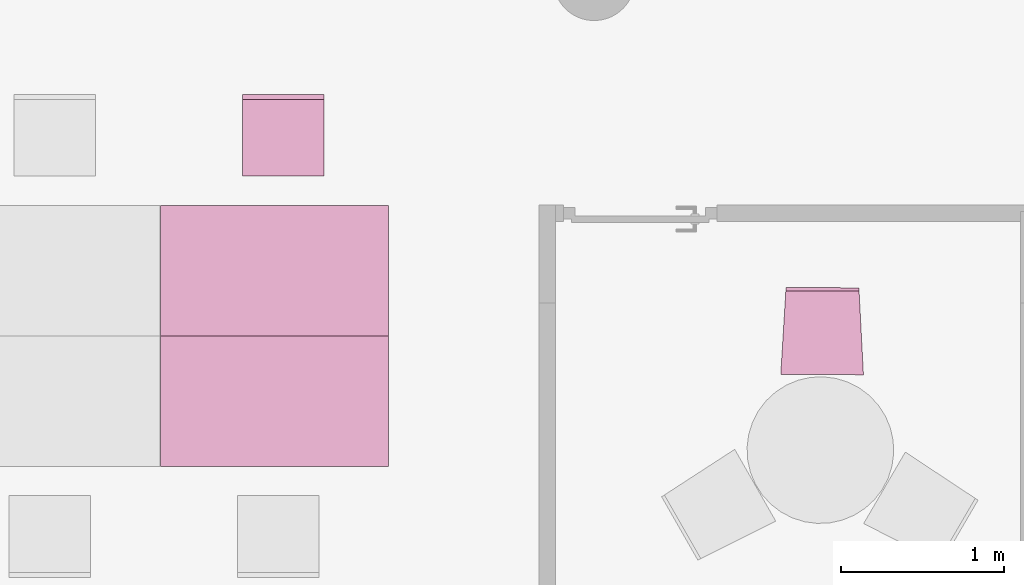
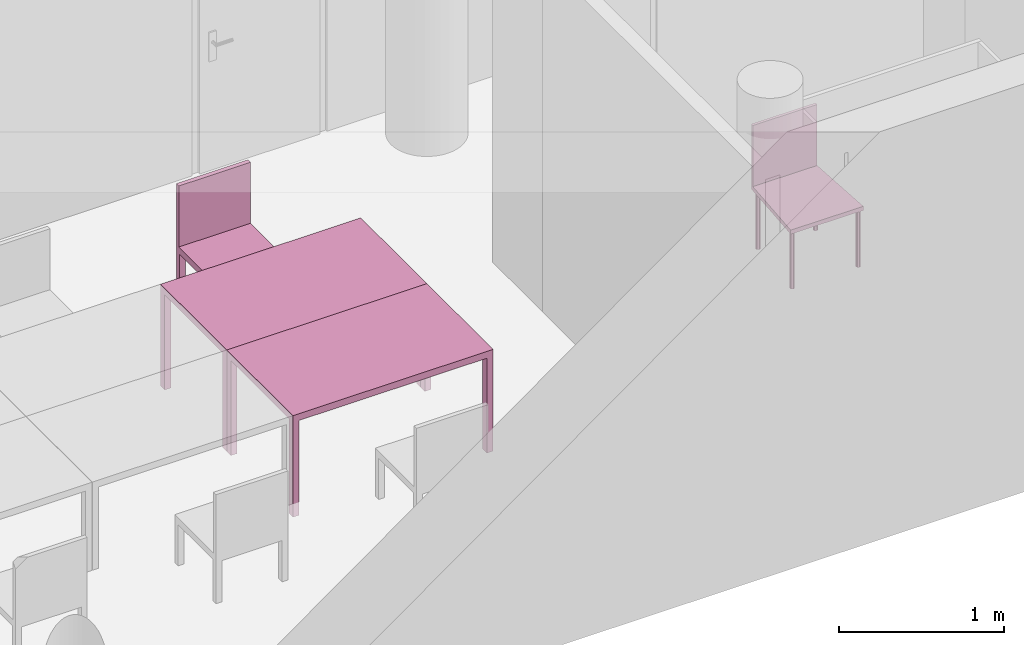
"""IFC4 building model written with IfcOpenShell, lengths in metres."""

from ifc_helpers import new_model, entity, si_unit, converted_unit, derived_unit, frame, origin, place, context, subcontext, project, spatial, faceted_brep, element, save


model = new_model("IFC4")

# Units and contexts
model_context = context("Model", 3, precision=1e-05, world=origin())
body_context = subcontext(model_context, "Body", "Model", "MODEL_VIEW")
ifc_project = project(units=[si_unit("LENGTHUNIT", "METRE"), si_unit("AREAUNIT", "SQUARE_METRE"), si_unit("VOLUMEUNIT", "CUBIC_METRE"), si_unit("MASSUNIT", "GRAM", prefix="KILO"), converted_unit("PLANEANGLEUNIT", "DEGREE", entity("IfcPlaneAngleMeasure", 0.0174532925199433), si_unit("PLANEANGLEUNIT", "RADIAN"), dimensions=[0, 0, 0, 0, 0, 0, 0]), derived_unit("THERMALTRANSMITTANCEUNIT", [(si_unit("POWERUNIT", "WATT"), 1), (si_unit("THERMODYNAMICTEMPERATUREUNIT", "KELVIN"), -1), (si_unit("LENGTHUNIT", "METRE"), -2)]), derived_unit("VOLUMETRICFLOWRATEUNIT", [(si_unit("LENGTHUNIT", "METRE"), 3), (converted_unit("TIMEUNIT", "hour", entity("IfcTimeMeasure", 3600.0), si_unit("TIMEUNIT", "SECOND"), dimensions=[0, 0, 1, 0, 0, 0, 0]), -1), (si_unit("LENGTHUNIT", "METRE"), -1)])], contexts=[model_context])

# Building, storeys
building_placement = place(None, origin())
building = spatial("IfcBuilding", under=ifc_project, at=building_placement, Name="HABITATGE PLURIFAMILIAR", CompositionType="ELEMENT")
storey_1_placement = place(building_placement, frame((0.0, 0.0, 9.26)))
storey_1 = spatial("IfcBuildingStorey", under=building, at=storey_1_placement, Name="PLANTA SEGONA", CompositionType="ELEMENT", Elevation=9.26)
storey_2_placement = place(storey_1_placement, frame((0.0, 0.0, 6.25)))
storey_2 = spatial("IfcBuildingStorey", under=storey_1, at=storey_2_placement, Name="NOU", CompositionType="PARTIAL")

# Furniture
furniture_1_placement = place(storey_2_placement, frame((403.682850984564, 16.5972248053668, -6.34505686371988)))
element("IfcFurniture", 1, at=furniture_1_placement, inside=storey_2, Name="Cadira d'Oficina_P2", context=body_context, shape_type="Brep", body=[
    faceted_brep([(0.5, 0.0, 0.4), (0.5, 0.500000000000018, 0.4), (0.0, 0.5, 0.4), (0.0, 0.0, 0.4), (0.5, 0.500000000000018, 0.45), (0.5, 0.0, 0.45), (0.0, 0.0, 0.45), (0.0, 0.5, 0.45)], [[[0, 1, 2, 3]], [[4, 5, 6, 7]], [[1, 0, 5, 4]], [[2, 1, 4, 7]], [[3, 2, 7, 6]], [[0, 3, 6, 5]]], orient=[[False], [False], [False], [False], [False], [False]]),
    faceted_brep([(0.0, 0.46, 0.0), (0.04, 0.46, 0.0), (0.04, 0.5, 0.0), (0.0, 0.5, 0.0), (0.04, 0.46, 0.4), (0.0, 0.46, 0.4), (0.0, 0.5, 0.4), (0.04, 0.5, 0.4)], [[[0, 1, 2, 3]], [[4, 5, 6, 7]], [[1, 0, 5, 4]], [[2, 1, 4, 7]], [[3, 2, 7, 6]], [[0, 3, 6, 5]]], orient=[[False], [False], [False], [False], [False], [False]]),
    faceted_brep([(0.0, 0.0, 0.0), (0.04, 0.0, 0.0), (0.04, 0.04, 0.0), (0.0, 0.04, 0.0), (0.04, 0.0, 0.4), (0.0, 0.0, 0.4), (0.0, 0.04, 0.4), (0.04, 0.04, 0.4)], [[[0, 1, 2, 3]], [[4, 5, 6, 7]], [[1, 0, 5, 4]], [[2, 1, 4, 7]], [[3, 2, 7, 6]], [[0, 3, 6, 5]]], orient=[[False], [False], [False], [False], [False], [False]]),
    faceted_brep([(0.46, 0.460000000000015, 0.0), (0.5, 0.460000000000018, 0.0), (0.5, 0.500000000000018, 0.0), (0.46, 0.500000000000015, 0.0), (0.5, 0.460000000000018, 0.4), (0.46, 0.460000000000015, 0.4), (0.46, 0.500000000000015, 0.4), (0.5, 0.500000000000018, 0.4)], [[[0, 1, 2, 3]], [[4, 5, 6, 7]], [[1, 0, 5, 4]], [[2, 1, 4, 7]], [[3, 2, 7, 6]], [[0, 3, 6, 5]]], orient=[[False], [False], [False], [False], [False], [False]]),
    faceted_brep([(0.46, 0.0, 0.0), (0.5, 0.0, 0.0), (0.5, 0.0400000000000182, 0.0), (0.46, 0.0400000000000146, 0.0), (0.5, 0.0, 0.4), (0.46, 0.0, 0.4), (0.46, 0.0400000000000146, 0.4), (0.5, 0.0400000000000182, 0.4)], [[[0, 1, 2, 3]], [[4, 5, 6, 7]], [[1, 0, 5, 4]], [[2, 1, 4, 7]], [[3, 2, 7, 6]], [[0, 3, 6, 5]]], orient=[[False], [False], [False], [False], [False], [False]]),
    faceted_brep([(0.0, 0.47, 0.45), (0.5, 0.470000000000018, 0.45), (0.5, 0.500000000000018, 0.45), (0.0, 0.5, 0.45), (0.5, 0.470000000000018, 0.9), (0.0, 0.47, 0.9), (0.0, 0.5, 0.9), (0.5, 0.500000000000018, 0.9)], [[[0, 1, 2, 3]], [[4, 5, 6, 7]], [[1, 0, 5, 4]], [[2, 1, 4, 7]], [[3, 2, 7, 6]], [[0, 3, 6, 5]]], orient=[[False], [False], [False], [False], [False], [False]]),
])
furniture_2_placement = place(storey_2_placement, frame((403.18086436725, 14.8179709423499, -6.3499999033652)))
element("IfcFurniture", 2, at=furniture_2_placement, inside=storey_2, Name="Taula 140X80_P2", context=body_context, shape_type="Brep", body=[
    faceted_brep([(0.04375, 0.750069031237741, 0.0), (0.04375, 0.800069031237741, 0.0), (0.0, 0.800069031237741, 0.0), (0.0, 0.750069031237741, 0.0), (0.04375, 0.800069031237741, 0.7), (0.04375, 0.750069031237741, 0.7), (0.0, 0.750069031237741, 0.7), (0.0, 0.800069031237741, 0.7)], [[[0, 1, 2, 3]], [[4, 5, 6, 7]], [[1, 0, 5, 4]], [[2, 1, 4, 7]], [[3, 2, 7, 6]], [[0, 3, 6, 5]]], orient=[[False], [False], [False], [False], [False], [False]]),
    faceted_brep([(0.04375, 0.0, 0.0), (0.04375, 0.05, 0.0), (0.0, 0.05, 0.0), (0.0, 0.0, 0.0), (0.04375, 0.05, 0.7), (0.04375, 0.0, 0.7), (0.0, 0.0, 0.7), (0.0, 0.05, 0.7)], [[[0, 1, 2, 3]], [[4, 5, 6, 7]], [[1, 0, 5, 4]], [[2, 1, 4, 7]], [[3, 2, 7, 6]], [[0, 3, 6, 5]]], orient=[[False], [False], [False], [False], [False], [False]]),
    faceted_brep([(1.39732768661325, 0.0, 0.7), (1.39732768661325, 0.800069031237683, 0.7), (0.0, 0.800069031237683, 0.7), (0.0, 0.0, 0.7), (1.39732768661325, 0.800069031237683, 0.75), (1.39732768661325, 0.0, 0.75), (0.0, 0.0, 0.75), (0.0, 0.800069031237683, 0.75)], [[[0, 1, 2, 3]], [[4, 5, 6, 7]], [[1, 0, 5, 4]], [[2, 1, 4, 7]], [[3, 2, 7, 6]], [[0, 3, 6, 5]]], orient=[[False], [False], [False], [False], [False], [False]]),
    faceted_brep([(1.39732768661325, 0.750069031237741, 0.0), (1.39732768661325, 0.800069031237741, 0.0), (1.35357768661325, 0.800069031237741, 0.0), (1.35357768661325, 0.750069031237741, 0.0), (1.39732768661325, 0.800069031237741, 0.7), (1.39732768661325, 0.750069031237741, 0.7), (1.35357768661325, 0.750069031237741, 0.7), (1.35357768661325, 0.800069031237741, 0.7)], [[[0, 1, 2, 3]], [[4, 5, 6, 7]], [[1, 0, 5, 4]], [[2, 1, 4, 7]], [[3, 2, 7, 6]], [[0, 3, 6, 5]]], orient=[[False], [False], [False], [False], [False], [False]]),
    faceted_brep([(1.39732768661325, 0.0, 0.0), (1.39732768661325, 0.05, 0.0), (1.35357768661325, 0.05, 0.0), (1.35357768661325, 0.0, 0.0), (1.39732768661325, 0.05, 0.7), (1.39732768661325, 0.0, 0.7), (1.35357768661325, 0.0, 0.7), (1.35357768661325, 0.05, 0.7)], [[[0, 1, 2, 3]], [[4, 5, 6, 7]], [[1, 0, 5, 4]], [[2, 1, 4, 7]], [[3, 2, 7, 6]], [[0, 3, 6, 5]]], orient=[[False], [False], [False], [False], [False], [False]]),
])
furniture_3_placement = place(storey_2_placement, frame((403.18086436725, 15.6180399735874, -6.3499999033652)))
element("IfcFurniture", 3, at=furniture_3_placement, inside=storey_2, Name="Taula 140X80_P2", context=body_context, shape_type="Brep", body=[
    faceted_brep([(0.04375, 0.05, 0.0), (0.0, 0.05, 0.0), (0.0, 0.0, 0.0), (0.04375, 0.0, 0.0), (0.04375, 0.0, 0.7), (0.0, 0.0, 0.7), (0.0, 0.05, 0.7), (0.04375, 0.05, 0.7)], [[[0, 1, 2, 3]], [[4, 5, 6, 7]], [[3, 4, 7, 0]], [[2, 5, 4, 3]], [[1, 6, 5, 2]], [[0, 7, 6, 1]]], orient=[[False], [False], [False], [False], [False], [False]]),
    faceted_brep([(0.04375, 0.800069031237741, 0.0), (0.0, 0.800069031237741, 0.0), (0.0, 0.750069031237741, 0.0), (0.04375, 0.750069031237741, 0.0), (0.04375, 0.750069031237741, 0.7), (0.0, 0.750069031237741, 0.7), (0.0, 0.800069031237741, 0.7), (0.04375, 0.800069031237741, 0.7)], [[[0, 1, 2, 3]], [[4, 5, 6, 7]], [[3, 4, 7, 0]], [[2, 5, 4, 3]], [[1, 6, 5, 2]], [[0, 7, 6, 1]]], orient=[[False], [False], [False], [False], [False], [False]]),
    faceted_brep([(1.39732768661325, 0.800069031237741, 0.7), (0.0, 0.800069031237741, 0.7), (0.0, 0.0, 0.7), (1.39732768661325, 0.0, 0.7), (1.39732768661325, 0.0, 0.75), (0.0, 0.0, 0.75), (0.0, 0.800069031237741, 0.75), (1.39732768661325, 0.800069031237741, 0.75)], [[[0, 1, 2, 3]], [[4, 5, 6, 7]], [[3, 4, 7, 0]], [[2, 5, 4, 3]], [[1, 6, 5, 2]], [[0, 7, 6, 1]]], orient=[[False], [False], [False], [False], [False], [False]]),
    faceted_brep([(1.39732768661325, 0.05, 0.0), (1.35357768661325, 0.05, 0.0), (1.35357768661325, 0.0, 0.0), (1.39732768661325, 0.0, 0.0), (1.39732768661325, 0.0, 0.7), (1.35357768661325, 0.0, 0.7), (1.35357768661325, 0.05, 0.7), (1.39732768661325, 0.05, 0.7)], [[[0, 1, 2, 3]], [[4, 5, 6, 7]], [[3, 4, 7, 0]], [[2, 5, 4, 3]], [[1, 6, 5, 2]], [[0, 7, 6, 1]]], orient=[[False], [False], [False], [False], [False], [False]]),
    faceted_brep([(1.39732768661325, 0.800069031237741, 0.0), (1.35357768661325, 0.800069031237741, 0.0), (1.35357768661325, 0.750069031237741, 0.0), (1.39732768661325, 0.750069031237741, 0.0), (1.39732768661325, 0.750069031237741, 0.7), (1.35357768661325, 0.750069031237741, 0.7), (1.35357768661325, 0.800069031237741, 0.7), (1.39732768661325, 0.800069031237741, 0.7)], [[[0, 1, 2, 3]], [[4, 5, 6, 7]], [[3, 4, 7, 0]], [[2, 5, 4, 3]], [[1, 6, 5, 2]], [[0, 7, 6, 1]]], orient=[[False], [False], [False], [False], [False], [False]]),
])
furniture_4_placement = place(storey_2_placement, frame((406.980423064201, 15.3794706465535, -6.3514820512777)))
element("IfcFurniture", 4, at=furniture_4_placement, inside=storey_2, Name="Cadira confident_P2", context=body_context, shape_type="Brep", body=[
    faceted_brep([(0.0392724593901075, 0.0271272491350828, 0.0), (0.0390567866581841, 0.0297221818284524, 0.0), (0.0383937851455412, 0.0322402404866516, 0.0), (0.0373035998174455, 0.0346049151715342, 0.0), (0.0358193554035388, 0.036744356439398, 0.0), (0.0339861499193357, 0.0385935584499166, 0.0), (0.0318596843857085, 0.0400963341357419, 0.0), (0.0295045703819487, 0.0412070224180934, 0.0), (0.0269923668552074, 0.0418918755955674, 0.0), (0.0243994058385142, 0.0421300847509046, 0.0), (0.0218044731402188, 0.041914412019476, 0.0), (0.0192864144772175, 0.04125141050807, 0.0), (0.0169217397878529, 0.040161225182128, 0.0), (0.0147822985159, 0.0386769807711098, 0.0), (0.0129330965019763, 0.0368437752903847, 0.0), (0.0114303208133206, 0.0347173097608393, 0.0), (0.0103196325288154, 0.0323621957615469, 0.0), (0.00963477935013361, 0.0298499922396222, 0.0), (0.00939657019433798, 0.0272570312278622, 0.0), (0.0096122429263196, 0.0246620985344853, 0.0), (0.0102752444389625, 0.0221440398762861, 0.0), (0.011365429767, 0.0197793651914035, 0.0), (0.0128496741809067, 0.0176399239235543, 0.0), (0.0146828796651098, 0.0157907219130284, 0.0), (0.0168093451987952, 0.0142879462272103, 0.0), (0.019164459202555, 0.0131772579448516, 0.0), (0.0216766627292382, 0.0124924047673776, 0.0), (0.0242696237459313, 0.0122541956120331, 0.0), (0.0268645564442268, 0.012469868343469, 0.0), (0.0293826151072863, 0.013132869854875, 0.0), (0.0317472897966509, 0.0142230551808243, 0.0), (0.0338867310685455, 0.0157072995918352, 0.0), (0.0357359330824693, 0.0175405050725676, 0.0), (0.037238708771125, 0.0196669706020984, 0.0), (0.0383493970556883, 0.0220220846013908, 0.0), (0.0390342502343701, 0.0245342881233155, 0.0), (0.0392724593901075, 0.0271272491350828, 0.448281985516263), (0.0390342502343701, 0.0245342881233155, 0.448281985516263), (0.0383493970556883, 0.0220220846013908, 0.448281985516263), (0.037238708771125, 0.0196669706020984, 0.448281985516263), (0.0357359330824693, 0.0175405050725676, 0.448281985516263), (0.0338867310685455, 0.0157072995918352, 0.448281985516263), (0.0317472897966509, 0.0142230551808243, 0.448281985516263), (0.0293826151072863, 0.013132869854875, 0.448281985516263), (0.0268645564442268, 0.012469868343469, 0.448281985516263), (0.0242696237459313, 0.0122541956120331, 0.448281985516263), (0.0216766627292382, 0.0124924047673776, 0.448281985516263), (0.019164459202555, 0.0131772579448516, 0.448281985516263), (0.0168093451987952, 0.0142879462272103, 0.448281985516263), (0.0146828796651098, 0.0157907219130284, 0.448281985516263), (0.0128496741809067, 0.0176399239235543, 0.448281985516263), (0.011365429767, 0.0197793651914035, 0.448281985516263), (0.0102752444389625, 0.0221440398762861, 0.448281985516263), (0.0096122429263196, 0.0246620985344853, 0.448281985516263), (0.00939657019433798, 0.0272570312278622, 0.448281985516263), (0.00963477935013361, 0.0298499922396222, 0.448281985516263), (0.0103196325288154, 0.0323621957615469, 0.448281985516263), (0.0114303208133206, 0.0347173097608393, 0.448281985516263), (0.0129330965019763, 0.0368437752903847, 0.448281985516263), (0.0147822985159, 0.0386769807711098, 0.448281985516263), (0.0169217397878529, 0.040161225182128, 0.448281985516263), (0.0192864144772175, 0.04125141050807, 0.448281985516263), (0.0218044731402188, 0.041914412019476, 0.448281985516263), (0.0243994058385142, 0.0421300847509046, 0.448281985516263), (0.0269923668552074, 0.0418918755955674, 0.448281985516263), (0.0295045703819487, 0.0412070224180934, 0.448281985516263), (0.0318596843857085, 0.0400963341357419, 0.448281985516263), (0.0339861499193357, 0.0385935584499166, 0.448281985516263), (0.0358193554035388, 0.036744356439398, 0.448281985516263), (0.0373035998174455, 0.0346049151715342, 0.448281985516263), (0.0383937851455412, 0.0322402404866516, 0.448281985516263), (0.0390567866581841, 0.0297221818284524, 0.448281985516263)], [[[0, 1, 2, 3, 4, 5, 6, 7, 8, 9, 10, 11, 12, 13, 14, 15, 16, 17, 18, 19, 20, 21, 22, 23, 24, 25, 26, 27, 28, 29, 30, 31, 32, 33, 34, 35]], [[36, 37, 38, 39, 40, 41, 42, 43, 44, 45, 46, 47, 48, 49, 50, 51, 52, 53, 54, 55, 56, 57, 58, 59, 60, 61, 62, 63, 64, 65, 66, 67, 68, 69, 70, 71]], [[1, 0, 36, 71]], [[2, 1, 71, 70]], [[3, 2, 70, 69]], [[4, 3, 69, 68]], [[5, 4, 68, 67]], [[6, 5, 67, 66]], [[7, 6, 66, 65]], [[8, 7, 65, 64]], [[9, 8, 64, 63]], [[10, 9, 63, 62]], [[11, 10, 62, 61]], [[12, 11, 61, 60]], [[13, 12, 60, 59]], [[14, 13, 59, 58]], [[15, 14, 58, 57]], [[16, 15, 57, 56]], [[17, 16, 56, 55]], [[18, 17, 55, 54]], [[19, 18, 54, 53]], [[20, 19, 53, 52]], [[21, 20, 52, 51]], [[22, 21, 51, 50]], [[23, 22, 50, 49]], [[24, 23, 49, 48]], [[25, 24, 48, 47]], [[26, 25, 47, 46]], [[27, 26, 46, 45]], [[28, 27, 45, 44]], [[29, 28, 44, 43]], [[30, 29, 43, 42]], [[31, 30, 42, 41]], [[32, 31, 41, 40]], [[33, 32, 40, 39]], [[34, 33, 39, 38]], [[35, 34, 38, 37]], [[0, 35, 37, 36]]], orient=[[False], [False], [False], [False], [False], [False], [False], [False], [False], [False], [False], [False], [False], [False], [False], [False], [False], [False], [False], [False], [False], [False], [False], [False], [False], [False], [False], [False], [False], [False], [False], [False], [False], [False], [False], [False], [False], [False]]),
    faceted_brep([(0.0689188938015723, 0.489409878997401, 0.0), (0.0687032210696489, 0.492004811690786, 0.0), (0.0680402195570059, 0.494522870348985, 0.0), (0.0669500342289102, 0.49688754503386, 0.0), (0.0654657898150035, 0.499026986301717, 0.0), (0.0636325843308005, 0.500876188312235, 0.0), (0.0615061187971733, 0.50237896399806, 0.0), (0.0591510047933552, 0.503489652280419, 0.0), (0.0566388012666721, 0.504174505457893, 0.0), (0.0540458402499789, 0.50441271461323, 0.0), (0.0514509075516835, 0.504197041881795, 0.0), (0.0489328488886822, 0.503534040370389, 0.0), (0.0465681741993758, 0.502443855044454, 0.0), (0.0444287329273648, 0.500959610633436, 0.0), (0.042579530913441, 0.499126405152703, 0.0), (0.0410767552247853, 0.496999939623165, 0.0), (0.0399660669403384, 0.49464482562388, 0.0), (0.0392812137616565, 0.492132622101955, 0.0), (0.0390430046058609, 0.489539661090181, 0.0), (0.0392586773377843, 0.486944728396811, 0.0), (0.0399216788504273, 0.484426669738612, 0.0), (0.041011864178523, 0.482061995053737, 0.0), (0.0424961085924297, 0.479922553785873, 0.0), (0.0443293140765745, 0.478073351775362, 0.0), (0.0464557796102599, 0.476570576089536, 0.0), (0.0488108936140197, 0.47545988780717, 0.0), (0.0513230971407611, 0.474775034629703, 0.0), (0.0539160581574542, 0.474536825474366, 0.0), (0.0565109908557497, 0.474752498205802, 0.0), (0.0590290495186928, 0.475415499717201, 0.0), (0.0613937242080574, 0.476505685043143, 0.0), (0.0635331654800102, 0.477989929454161, 0.0), (0.0653823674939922, 0.479823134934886, 0.0), (0.0668851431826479, 0.481949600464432, 0.0), (0.0679958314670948, 0.484304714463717, 0.0), (0.0686806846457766, 0.486816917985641, 0.0), (0.0689188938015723, 0.489409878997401, 0.448281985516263), (0.0686806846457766, 0.486816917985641, 0.448281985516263), (0.0679958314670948, 0.484304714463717, 0.448281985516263), (0.0668851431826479, 0.481949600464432, 0.448281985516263), (0.0653823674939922, 0.479823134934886, 0.448281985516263), (0.0635331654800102, 0.477989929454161, 0.448281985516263), (0.0613937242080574, 0.476505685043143, 0.448281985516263), (0.0590290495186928, 0.475415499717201, 0.448281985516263), (0.0565109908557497, 0.474752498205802, 0.448281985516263), (0.0539160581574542, 0.474536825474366, 0.448281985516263), (0.0513230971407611, 0.474775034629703, 0.448281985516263), (0.0488108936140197, 0.47545988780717, 0.448281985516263), (0.0464557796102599, 0.476570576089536, 0.448281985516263), (0.0443293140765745, 0.478073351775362, 0.448281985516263), (0.0424961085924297, 0.479922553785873, 0.448281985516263), (0.041011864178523, 0.482061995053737, 0.448281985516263), (0.0399216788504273, 0.484426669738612, 0.448281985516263), (0.0392586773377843, 0.486944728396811, 0.448281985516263), (0.0390430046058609, 0.489539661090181, 0.448281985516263), (0.0392812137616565, 0.492132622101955, 0.448281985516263), (0.0399660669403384, 0.49464482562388, 0.448281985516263), (0.0410767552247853, 0.496999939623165, 0.448281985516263), (0.042579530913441, 0.499126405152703, 0.448281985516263), (0.0444287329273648, 0.500959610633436, 0.448281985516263), (0.0465681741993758, 0.502443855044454, 0.448281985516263), (0.0489328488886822, 0.503534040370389, 0.448281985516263), (0.0514509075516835, 0.504197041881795, 0.448281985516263), (0.0540458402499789, 0.50441271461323, 0.448281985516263), (0.0566388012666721, 0.504174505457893, 0.448281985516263), (0.0591510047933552, 0.503489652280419, 0.448281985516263), (0.0615061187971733, 0.50237896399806, 0.448281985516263), (0.0636325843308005, 0.500876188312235, 0.448281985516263), (0.0654657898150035, 0.499026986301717, 0.448281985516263), (0.0669500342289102, 0.49688754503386, 0.448281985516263), (0.0680402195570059, 0.494522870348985, 0.448281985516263), (0.0687032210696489, 0.492004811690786, 0.448281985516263)], [[[0, 1, 2, 3, 4, 5, 6, 7, 8, 9, 10, 11, 12, 13, 14, 15, 16, 17, 18, 19, 20, 21, 22, 23, 24, 25, 26, 27, 28, 29, 30, 31, 32, 33, 34, 35]], [[36, 37, 38, 39, 40, 41, 42, 43, 44, 45, 46, 47, 48, 49, 50, 51, 52, 53, 54, 55, 56, 57, 58, 59, 60, 61, 62, 63, 64, 65, 66, 67, 68, 69, 70, 71]], [[1, 0, 36, 71]], [[2, 1, 71, 70]], [[3, 2, 70, 69]], [[4, 3, 69, 68]], [[5, 4, 68, 67]], [[6, 5, 67, 66]], [[7, 6, 66, 65]], [[8, 7, 65, 64]], [[9, 8, 64, 63]], [[10, 9, 63, 62]], [[11, 10, 62, 61]], [[12, 11, 61, 60]], [[13, 12, 60, 59]], [[14, 13, 59, 58]], [[15, 14, 58, 57]], [[16, 15, 57, 56]], [[17, 16, 56, 55]], [[18, 17, 55, 54]], [[19, 18, 54, 53]], [[20, 19, 53, 52]], [[21, 20, 52, 51]], [[22, 21, 51, 50]], [[23, 22, 50, 49]], [[24, 23, 49, 48]], [[25, 24, 48, 47]], [[26, 25, 47, 46]], [[27, 26, 46, 45]], [[28, 27, 45, 44]], [[29, 28, 44, 43]], [[30, 29, 43, 42]], [[31, 30, 42, 41]], [[32, 31, 41, 40]], [[33, 32, 40, 39]], [[34, 33, 39, 38]], [[35, 34, 38, 37]], [[0, 35, 37, 36]]], orient=[[False], [False], [False], [False], [False], [False], [False], [False], [False], [False], [False], [False], [False], [False], [False], [False], [False], [False], [False], [False], [False], [False], [False], [False], [False], [False], [False], [False], [False], [False], [False], [False], [False], [False], [False], [False], [False], [False]]),
    faceted_brep([(0.499268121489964, 0.0251290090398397, 0.0), (0.499052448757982, 0.0277239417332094, 0.0), (0.498389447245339, 0.0302420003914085, 0.0), (0.497299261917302, 0.0326066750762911, 0.0), (0.495815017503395, 0.0347461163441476, 0.0), (0.493981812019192, 0.0365953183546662, 0.0), (0.491855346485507, 0.0380980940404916, 0.0), (0.489500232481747, 0.0392087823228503, 0.0), (0.486988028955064, 0.0398936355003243, 0.0), (0.484395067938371, 0.0401318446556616, 0.0), (0.481800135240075, 0.0399161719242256, 0.0), (0.479282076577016, 0.0392531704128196, 0.0), (0.476917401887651, 0.0381629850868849, 0.0), (0.474777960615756, 0.0366787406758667, 0.0), (0.472928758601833, 0.0348455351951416, 0.0), (0.471425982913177, 0.0327190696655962, 0.0), (0.470315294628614, 0.0303639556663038, 0.0), (0.469630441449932, 0.0278517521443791, 0.0), (0.469392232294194, 0.0252587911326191, 0.0), (0.469607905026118, 0.0226638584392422, 0.0), (0.470270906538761, 0.020145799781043, 0.0), (0.471361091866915, 0.0177811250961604, 0.0), (0.472845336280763, 0.0156416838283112, 0.0), (0.474678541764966, 0.0137924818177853, 0.0), (0.476805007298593, 0.0122897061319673, 0.0), (0.479160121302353, 0.0111790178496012, 0.0), (0.481672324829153, 0.0104941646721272, 0.0), (0.484265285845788, 0.01025595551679, 0.0), (0.486860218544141, 0.0104716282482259, 0.0), (0.489378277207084, 0.0111346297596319, 0.0), (0.491742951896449, 0.0122248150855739, 0.0), (0.493882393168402, 0.0137090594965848, 0.0), (0.495731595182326, 0.0155422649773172, 0.0), (0.49723437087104, 0.0176687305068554, 0.0), (0.498345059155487, 0.0200238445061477, 0.0), (0.499029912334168, 0.0225360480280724, 0.0), (0.499268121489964, 0.0251290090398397, 0.448281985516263), (0.499029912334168, 0.0225360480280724, 0.448281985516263), (0.498345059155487, 0.0200238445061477, 0.448281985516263), (0.49723437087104, 0.0176687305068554, 0.448281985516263), (0.495731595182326, 0.0155422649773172, 0.448281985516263), (0.493882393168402, 0.0137090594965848, 0.448281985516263), (0.491742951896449, 0.0122248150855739, 0.448281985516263), (0.489378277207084, 0.0111346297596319, 0.448281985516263), (0.486860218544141, 0.0104716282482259, 0.448281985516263), (0.484265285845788, 0.01025595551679, 0.448281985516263), (0.481672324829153, 0.0104941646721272, 0.448281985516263), (0.479160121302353, 0.0111790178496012, 0.448281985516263), (0.476805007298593, 0.0122897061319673, 0.448281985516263), (0.474678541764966, 0.0137924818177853, 0.448281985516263), (0.472845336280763, 0.0156416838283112, 0.448281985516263), (0.471361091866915, 0.0177811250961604, 0.448281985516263), (0.470270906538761, 0.020145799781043, 0.448281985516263), (0.469607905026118, 0.0226638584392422, 0.448281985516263), (0.469392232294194, 0.0252587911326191, 0.448281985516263), (0.469630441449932, 0.0278517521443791, 0.448281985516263), (0.470315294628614, 0.0303639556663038, 0.448281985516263), (0.471425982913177, 0.0327190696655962, 0.448281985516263), (0.472928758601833, 0.0348455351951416, 0.448281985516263), (0.474777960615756, 0.0366787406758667, 0.448281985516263), (0.476917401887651, 0.0381629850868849, 0.448281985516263), (0.479282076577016, 0.0392531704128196, 0.448281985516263), (0.481800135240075, 0.0399161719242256, 0.448281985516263), (0.484395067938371, 0.0401318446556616, 0.448281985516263), (0.486988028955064, 0.0398936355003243, 0.448281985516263), (0.489500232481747, 0.0392087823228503, 0.448281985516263), (0.491855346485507, 0.0380980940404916, 0.448281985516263), (0.493981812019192, 0.0365953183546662, 0.448281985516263), (0.495815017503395, 0.0347461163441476, 0.448281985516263), (0.497299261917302, 0.0326066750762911, 0.448281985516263), (0.498389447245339, 0.0302420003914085, 0.448281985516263), (0.499052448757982, 0.0277239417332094, 0.448281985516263)], [[[0, 1, 2, 3, 4, 5, 6, 7, 8, 9, 10, 11, 12, 13, 14, 15, 16, 17, 18, 19, 20, 21, 22, 23, 24, 25, 26, 27, 28, 29, 30, 31, 32, 33, 34, 35]], [[36, 37, 38, 39, 40, 41, 42, 43, 44, 45, 46, 47, 48, 49, 50, 51, 52, 53, 54, 55, 56, 57, 58, 59, 60, 61, 62, 63, 64, 65, 66, 67, 68, 69, 70, 71]], [[1, 0, 36, 71]], [[2, 1, 71, 70]], [[3, 2, 70, 69]], [[4, 3, 69, 68]], [[5, 4, 68, 67]], [[6, 5, 67, 66]], [[7, 6, 66, 65]], [[8, 7, 65, 64]], [[9, 8, 64, 63]], [[10, 9, 63, 62]], [[11, 10, 62, 61]], [[12, 11, 61, 60]], [[13, 12, 60, 59]], [[14, 13, 59, 58]], [[15, 14, 58, 57]], [[16, 15, 57, 56]], [[17, 16, 56, 55]], [[18, 17, 55, 54]], [[19, 18, 54, 53]], [[20, 19, 53, 52]], [[21, 20, 52, 51]], [[22, 21, 51, 50]], [[23, 22, 50, 49]], [[24, 23, 49, 48]], [[25, 24, 48, 47]], [[26, 25, 47, 46]], [[27, 26, 46, 45]], [[28, 27, 45, 44]], [[29, 28, 44, 43]], [[30, 29, 43, 42]], [[31, 30, 42, 41]], [[32, 31, 41, 40]], [[33, 32, 40, 39]], [[34, 33, 39, 38]], [[35, 34, 38, 37]], [[0, 35, 37, 36]]], orient=[[False], [False], [False], [False], [False], [False], [False], [False], [False], [False], [False], [False], [False], [False], [False], [False], [False], [False], [False], [False], [False], [False], [False], [False], [False], [False], [False], [False], [False], [False], [False], [False], [False], [False], [False], [False], [False], [False]]),
    faceted_brep([(0.468915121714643, 0.487672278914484, 0.0), (0.468699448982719, 0.490267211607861, 0.0), (0.468036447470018, 0.492785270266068, 0.0), (0.466946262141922, 0.495149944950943, 0.0), (0.465462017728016, 0.497289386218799, 0.0), (0.463628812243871, 0.499138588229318, 0.0), (0.461502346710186, 0.500641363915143, 0.0), (0.459147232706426, 0.501752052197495, 0.0), (0.456635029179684, 0.502436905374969, 0.0), (0.454042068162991, 0.502675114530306, 0.0), (0.451447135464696, 0.502459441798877, 0.0), (0.448929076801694, 0.501796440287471, 0.0), (0.446564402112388, 0.500706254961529, 0.0), (0.444424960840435, 0.499222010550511, 0.0), (0.442575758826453, 0.497388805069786, 0.0), (0.441072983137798, 0.495262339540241, 0.0), (0.439962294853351, 0.492907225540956, 0.0), (0.439277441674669, 0.490395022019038, 0.0), (0.439039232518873, 0.487802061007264, 0.0), (0.439254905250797, 0.485207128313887, 0.0), (0.43991790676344, 0.482689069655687, 0.0), (0.441008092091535, 0.480324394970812, 0.0), (0.442492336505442, 0.478184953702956, 0.0), (0.444325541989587, 0.476335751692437, 0.0), (0.446452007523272, 0.474832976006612, 0.0), (0.448807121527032, 0.473722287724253, 0.0), (0.451319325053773, 0.473037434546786, 0.0), (0.453912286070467, 0.472799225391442, 0.0), (0.456507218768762, 0.473014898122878, 0.0), (0.459025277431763, 0.473677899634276, 0.0), (0.46138995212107, 0.474768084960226, 0.0), (0.463529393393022, 0.476252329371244, 0.0), (0.465378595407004, 0.478085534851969, 0.0), (0.46688137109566, 0.480212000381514, 0.0), (0.467992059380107, 0.482567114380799, 0.0), (0.468676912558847, 0.485079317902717, 0.0), (0.468915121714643, 0.487672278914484, 0.448281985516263), (0.468676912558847, 0.485079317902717, 0.448281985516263), (0.467992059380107, 0.482567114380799, 0.448281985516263), (0.46688137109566, 0.480212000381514, 0.448281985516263), (0.465378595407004, 0.478085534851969, 0.448281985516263), (0.463529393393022, 0.476252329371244, 0.448281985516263), (0.46138995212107, 0.474768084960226, 0.448281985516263), (0.459025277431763, 0.473677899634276, 0.448281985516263), (0.456507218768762, 0.473014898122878, 0.448281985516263), (0.453912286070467, 0.472799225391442, 0.448281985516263), (0.451319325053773, 0.473037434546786, 0.448281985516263), (0.448807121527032, 0.473722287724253, 0.448281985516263), (0.446452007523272, 0.474832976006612, 0.448281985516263), (0.444325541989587, 0.476335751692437, 0.448281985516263), (0.442492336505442, 0.478184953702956, 0.448281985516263), (0.441008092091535, 0.480324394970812, 0.448281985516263), (0.43991790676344, 0.482689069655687, 0.448281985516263), (0.439254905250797, 0.485207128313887, 0.448281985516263), (0.439039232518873, 0.487802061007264, 0.448281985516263), (0.439277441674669, 0.490395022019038, 0.448281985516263), (0.439962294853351, 0.492907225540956, 0.448281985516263), (0.441072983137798, 0.495262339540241, 0.448281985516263), (0.442575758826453, 0.497388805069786, 0.448281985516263), (0.444424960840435, 0.499222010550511, 0.448281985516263), (0.446564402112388, 0.500706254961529, 0.448281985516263), (0.448929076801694, 0.501796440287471, 0.448281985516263), (0.451447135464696, 0.502459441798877, 0.448281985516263), (0.454042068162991, 0.502675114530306, 0.448281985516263), (0.456635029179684, 0.502436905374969, 0.448281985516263), (0.459147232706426, 0.501752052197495, 0.448281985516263), (0.461502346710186, 0.500641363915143, 0.448281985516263), (0.463628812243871, 0.499138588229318, 0.448281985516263), (0.465462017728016, 0.497289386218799, 0.448281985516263), (0.466946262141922, 0.495149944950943, 0.448281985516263), (0.468036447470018, 0.492785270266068, 0.448281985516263), (0.468699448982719, 0.490267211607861, 0.448281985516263)], [[[0, 1, 2, 3, 4, 5, 6, 7, 8, 9, 10, 11, 12, 13, 14, 15, 16, 17, 18, 19, 20, 21, 22, 23, 24, 25, 26, 27, 28, 29, 30, 31, 32, 33, 34, 35]], [[36, 37, 38, 39, 40, 41, 42, 43, 44, 45, 46, 47, 48, 49, 50, 51, 52, 53, 54, 55, 56, 57, 58, 59, 60, 61, 62, 63, 64, 65, 66, 67, 68, 69, 70, 71]], [[1, 0, 36, 71]], [[2, 1, 71, 70]], [[3, 2, 70, 69]], [[4, 3, 69, 68]], [[5, 4, 68, 67]], [[6, 5, 67, 66]], [[7, 6, 66, 65]], [[8, 7, 65, 64]], [[9, 8, 64, 63]], [[10, 9, 63, 62]], [[11, 10, 62, 61]], [[12, 11, 61, 60]], [[13, 12, 60, 59]], [[14, 13, 59, 58]], [[15, 14, 58, 57]], [[16, 15, 57, 56]], [[17, 16, 56, 55]], [[18, 17, 55, 54]], [[19, 18, 54, 53]], [[20, 19, 53, 52]], [[21, 20, 52, 51]], [[22, 21, 51, 50]], [[23, 22, 50, 49]], [[24, 23, 49, 48]], [[25, 24, 48, 47]], [[26, 25, 47, 46]], [[27, 26, 46, 45]], [[28, 27, 45, 44]], [[29, 28, 44, 43]], [[30, 29, 43, 42]], [[31, 30, 42, 41]], [[32, 31, 41, 40]], [[33, 32, 40, 39]], [[34, 33, 39, 38]], [[35, 34, 38, 37]], [[0, 35, 37, 36]]], orient=[[False], [False], [False], [False], [False], [False], [False], [False], [False], [False], [False], [False], [False], [False], [False], [False], [False], [False], [False], [False], [False], [False], [False], [False], [False], [False], [False], [False], [False], [False], [False], [False], [False], [False], [False], [False], [False], [False]]),
    faceted_brep([(0.478823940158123, 0.532733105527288, 0.418281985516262), (0.0323133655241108, 0.534672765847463, 0.418281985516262), (0.0, 0.0022003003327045, 0.418281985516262), (0.506510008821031, 0.0, 0.418281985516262), (0.506510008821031, 0.0, 0.448281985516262), (0.0, 0.0022003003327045, 0.448281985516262), (0.0323133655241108, 0.534672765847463, 0.448281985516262), (0.478823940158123, 0.532733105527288, 0.448281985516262)], [[[0, 1, 2, 3]], [[4, 5, 6, 7]], [[3, 4, 7, 0]], [[2, 5, 4, 3]], [[1, 6, 5, 2]], [[0, 7, 6, 1]]], orient=[[False], [False], [False], [False], [False], [False]]),
    faceted_brep([(0.478737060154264, 0.512733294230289, 0.448281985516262), (0.478823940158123, 0.532733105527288, 0.448281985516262), (0.0323133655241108, 0.534672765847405, 0.448281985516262), (0.032226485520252, 0.514672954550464, 0.448281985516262), (0.032226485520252, 0.514672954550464, 0.898281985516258), (0.0323133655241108, 0.534672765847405, 0.898281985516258), (0.478823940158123, 0.532733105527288, 0.898281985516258), (0.478737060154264, 0.512733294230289, 0.898281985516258)], [[[0, 1, 2, 3]], [[4, 5, 6, 7]], [[3, 4, 7, 0]], [[2, 5, 4, 3]], [[1, 6, 5, 2]], [[0, 7, 6, 1]]], orient=[[False], [False], [False], [False], [False], [False]]),
])

save(model, "model.ifc")
